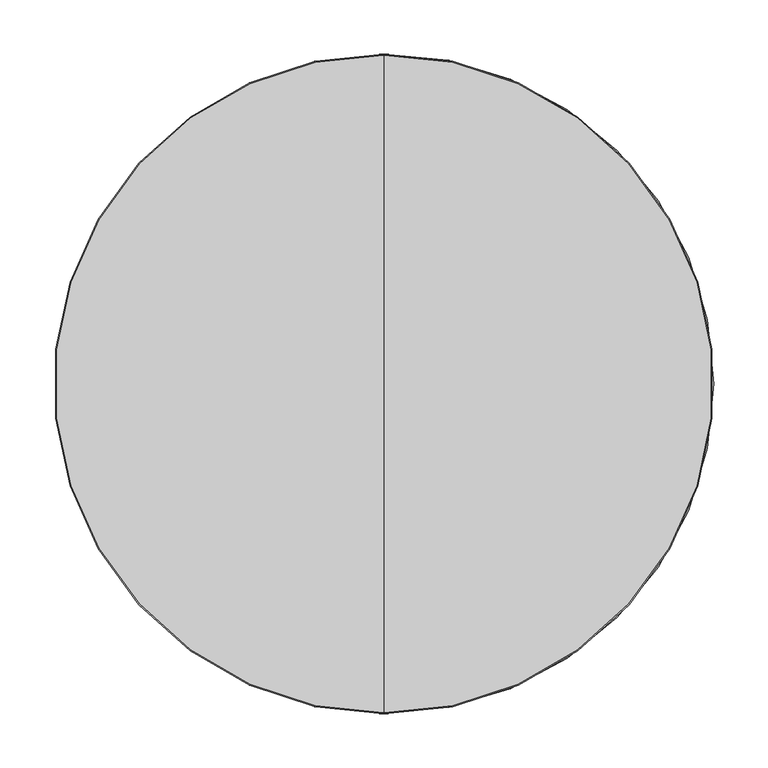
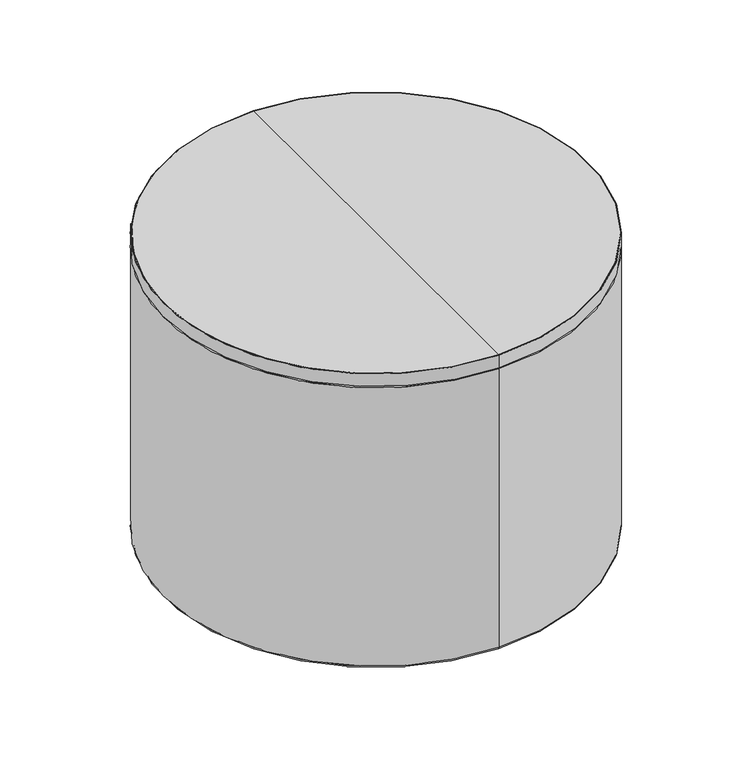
"""IFC4 building model written with IfcOpenShell, lengths in millimetres: furniture geometry, Indiana-Otty-Ottoman_Round_Table : 840-2418ROT."""

from ifc_helpers import new_model, si_unit, point, frame, origin, place, context, project, spatial, polyline, circle_curve, ellipse_curve, trimmed, source, transform, mapped, element, save
from ifc_brep_helpers import plane_surface, cylinder_surface, revolved_surface, advanced_brep


def furniture_b14e69c4(model_context):
    return source(origin(), model_context, "Body", "AdvancedBrep", [
        advanced_brep(
        [(237.5670449, 57.5253392, 19.8875), (218.0814733, 68.7753392, 19.8875), (257.0526165, 46.2753392, 19.8875), (218.4698785, 68.5510934, 4.2458827), (256.6642112, 46.4995851, 4.2458827), (222.3541253, 66.3085225, -0.1125), (252.7799645, 48.742156, -0.1125), (228.675027, 62.6591482, -0.1125), (246.4590628, 52.3915303, -0.1125), (232.0477423, 60.7119101, 3.9179615), (243.0863475, 54.3387684, 3.9179615), (237.5670449, 57.5253392, 3.9179615)],
        [
            (0, 1),
            (1, 2, circle_curve(frame((237.5670449, 57.5253392, 19.8875), z_axis=(0.0, 0.0, 1.0), x_axis=(-0.8660254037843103, 0.5000000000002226, 0.0)), 22.5)),
            (2, 0),
            (2, 1, circle_curve(frame((237.5670449, 57.5253392, 19.8875), z_axis=(0.0, 0.0, 1.0), x_axis=(-0.8660254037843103, 0.5000000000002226, 0.0)), 22.5)),
            (1, 3),
            (3, 4, circle_curve(frame((237.5670449, 57.5253392, 4.2458827), z_axis=(0.0, 0.0, 1.0), x_axis=(-0.8660254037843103, 0.5000000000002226, 0.0)), 22.0515082)),
            (4, 2),
            (4, 3, circle_curve(frame((237.5670449, 57.5253392, 4.2458827), z_axis=(0.0, 0.0, 1.0), x_axis=(-0.8660254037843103, 0.5000000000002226, 0.0)), 22.0515082)),
            (3, 5, circle_curve(frame((222.3541253, 66.3085225, 4.3744851), z_axis=(-0.5000000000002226, -0.8660254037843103, 0.0), x_axis=(0.8660254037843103, -0.5000000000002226, 0.0)), 4.4869851)),
            (5, 6, circle_curve(frame((237.5670449, 57.5253392, -0.1125), z_axis=(0.0, 0.0, 1.0), x_axis=(-0.8660254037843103, 0.5000000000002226, 0.0)), 17.5663665)),
            (6, 4, circle_curve(frame((252.7799645, 48.742156, 4.3744851), z_axis=(-0.5000000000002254, -0.8660254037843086, 0.0), x_axis=(-0.8660254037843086, 0.5000000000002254, 0.0)), 4.4869851)),
            (6, 5, circle_curve(frame((237.5670449, 57.5253392, -0.1125), z_axis=(0.0, 0.0, 1.0), x_axis=(-0.8660254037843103, 0.5000000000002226, 0.0)), 17.5663665)),
            (5, 7),
            (7, 8, circle_curve(frame((237.5670449, 57.5253392, -0.1125), z_axis=(0.0, 0.0, 1.0), x_axis=(-0.8660254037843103, 0.5000000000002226, 0.0)), 10.2676178)),
            (8, 6),
            (8, 7, circle_curve(frame((237.5670449, 57.5253392, -0.1125), z_axis=(0.0, 0.0, 1.0), x_axis=(-0.8660254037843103, 0.5000000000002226, 0.0)), 10.2676178)),
            (7, 9, circle_curve(frame((228.675027, 62.6591482, 3.7842702), z_axis=(-0.5000000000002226, -0.8660254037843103, 0.0), x_axis=(0.8660254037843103, -0.5000000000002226, 0.0)), 3.8967702)),
            (9, 10, circle_curve(frame((237.5670449, 57.5253392, 3.9179615), z_axis=(0.0, 0.0, 1.0), x_axis=(-0.8660254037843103, 0.5000000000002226, 0.0)), 6.3731417)),
            (10, 8, circle_curve(frame((246.4590628, 52.3915303, 3.7842702), z_axis=(-0.5000000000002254, -0.8660254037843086, 0.0), x_axis=(-0.8660254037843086, 0.5000000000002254, 0.0)), 3.8967702)),
            (10, 9, circle_curve(frame((237.5670449, 57.5253392, 3.9179615), z_axis=(0.0, 0.0, 1.0), x_axis=(-0.8660254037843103, 0.5000000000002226, 0.0)), 6.3731417)),
            (9, 11),
            (11, 10),
        ],
        [
            plane_surface(frame((237.5670449, 57.5253392, 19.8875), z_axis=(0.0, 0.0, 1.0000000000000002), x_axis=(-0.8660254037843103, 0.5000000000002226, 0.0))),
            revolved_surface(polyline([(218.4698785, 68.5510934, 4.2458827), (218.0814733, 68.7753392, 19.8875)]), (237.5670449, 57.5253392, 31.0803862), (0.0, 0.0, 1.0)),
            revolved_surface(trimmed(ellipse_curve(frame((222.3541253, 66.3085225, 4.3744851), z_axis=(0.5000000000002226, 0.8660254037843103, 0.0), x_axis=(0.8660254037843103, -0.5000000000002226, 0.0)), 4.4869851, 4.4869851), [point((222.3541253, 66.3085225, -0.1125))], [point((218.4698785, 68.5510934, 4.2458827))], True, "CARTESIAN"), (237.5670449, 57.5253392, 31.0803862), (0.0, 0.0, 1.0)),
            plane_surface(frame((237.5670449, 57.5253392, -0.1125), z_axis=(0.0, 0.0, -1.0000000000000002), x_axis=(-0.8660254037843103, 0.5000000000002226, 0.0))),
            revolved_surface(trimmed(ellipse_curve(frame((228.675027, 62.6591482, 3.7842702), z_axis=(0.5000000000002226, 0.8660254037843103, 0.0), x_axis=(0.8660254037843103, -0.5000000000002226, 0.0)), 3.8967702, 3.8967702), [point((232.0477423, 60.7119101, 3.9179615))], [point((228.675027, 62.6591482, -0.1125))], True, "CARTESIAN"), (237.5670449, 57.5253392, 31.0803862), (0.0, 0.0, 1.0)),
            plane_surface(frame((237.5670449, 57.5253392, 3.9179615), z_axis=(0.0, 0.0, -1.0000000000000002), x_axis=(-0.8660254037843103, 0.5000000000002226, 0.0))),
        ],
        [
            (0, [[1, 2, 3]]),
            (0, [[-3, 4, -1]]),
            (1, [[-2, 5, 6, 7]]),
            (1, [[-4, -7, 8, -5]]),
            (2, [[-6, 9, 10, 11]]),
            (2, [[-8, -11, 12, -9]]),
            (3, [[-10, 13, 14, 15]]),
            (3, [[-12, -15, 16, -13]]),
            (4, [[-14, 17, 18, 19]]),
            (4, [[-16, -19, 20, -17]]),
            (5, [[-18, 21, 22]]),
            (5, [[-20, -22, -21]]),
        ],
    ),
        advanced_brep(
        [(168.6019276, -176.9764263, 19.8875), (168.6019276, -154.4764263, 19.8875), (168.6019276, -199.4764263, 19.8875), (168.6019276, -154.9249181, 4.2458827), (168.6019276, -199.0279346, 4.2458827), (168.6019276, -159.4100599, -0.1125), (168.6019276, -194.5427928, -0.1125), (168.6019276, -166.7088085, -0.1125), (168.6019276, -187.2440442, -0.1125), (168.6019276, -170.6032847, 3.9179615), (168.6019276, -183.349568, 3.9179615), (168.6019276, -176.9764263, 3.9179615)],
        [
            (0, 1),
            (1, 2, circle_curve(frame((168.6019276, -176.9764263, 19.8875), z_axis=(0.0, 0.0, 1.0), x_axis=(0.0, 1.0, 0.0)), 22.5)),
            (2, 0),
            (2, 1, circle_curve(frame((168.6019276, -176.9764263, 19.8875), z_axis=(0.0, 0.0, 1.0), x_axis=(0.0, 1.0, 0.0)), 22.5)),
            (1, 3),
            (3, 4, circle_curve(frame((168.6019276, -176.9764263, 4.2458827), z_axis=(0.0, 0.0, 1.0), x_axis=(0.0, 1.0, 0.0)), 22.0515082)),
            (4, 2),
            (4, 3, circle_curve(frame((168.6019276, -176.9764263, 4.2458827), z_axis=(0.0, 0.0, 1.0), x_axis=(0.0, 1.0, 0.0)), 22.0515082)),
            (3, 5, circle_curve(frame((168.6019276, -159.4100599, 4.3744851), z_axis=(-1.0, 0.0, 0.0), x_axis=(0.0, -1.0, 0.0)), 4.4869851)),
            (5, 6, circle_curve(frame((168.6019276, -176.9764263, -0.1125), z_axis=(0.0, 0.0, 1.0), x_axis=(0.0, 1.0, 0.0)), 17.5663665)),
            (6, 4, circle_curve(frame((168.6019276, -194.5427928, 4.3744851), z_axis=(-1.0, 0.0, 0.0), x_axis=(0.0, 1.0, 0.0)), 4.4869851)),
            (6, 5, circle_curve(frame((168.6019276, -176.9764263, -0.1125), z_axis=(0.0, 0.0, 1.0), x_axis=(0.0, 1.0, 0.0)), 17.5663665)),
            (5, 7),
            (7, 8, circle_curve(frame((168.6019276, -176.9764263, -0.1125), z_axis=(0.0, 0.0, 1.0), x_axis=(0.0, 1.0, 0.0)), 10.2676178)),
            (8, 6),
            (8, 7, circle_curve(frame((168.6019276, -176.9764263, -0.1125), z_axis=(0.0, 0.0, 1.0), x_axis=(0.0, 1.0, 0.0)), 10.2676178)),
            (7, 9, circle_curve(frame((168.6019276, -166.7088085, 3.7842702), z_axis=(-1.0, 0.0, 0.0), x_axis=(0.0, -1.0, 0.0)), 3.8967702)),
            (9, 10, circle_curve(frame((168.6019276, -176.9764263, 3.9179615), z_axis=(0.0, 0.0, 1.0), x_axis=(0.0, 1.0, 0.0)), 6.3731417)),
            (10, 8, circle_curve(frame((168.6019276, -187.2440442, 3.7842702), z_axis=(-1.0, 0.0, 0.0), x_axis=(0.0, 1.0, 0.0)), 3.8967702)),
            (10, 9, circle_curve(frame((168.6019276, -176.9764263, 3.9179615), z_axis=(0.0, 0.0, 1.0), x_axis=(0.0, 1.0, 0.0)), 6.3731417)),
            (9, 11),
            (11, 10),
        ],
        [
            plane_surface(frame((168.6019276, -176.9764263, 19.8875), z_axis=(0.0, 0.0, 1.0), x_axis=(0.0, 1.0, 0.0))),
            revolved_surface(polyline([(168.6019276, -154.9249181, 4.2458827), (168.6019276, -154.4764263, 19.8875)]), (168.6019276, -176.9764263, 31.0803862), (0.0, 0.0, 1.0)),
            revolved_surface(trimmed(ellipse_curve(frame((168.6019276, -159.4100599, 4.3744851), z_axis=(1.0, 0.0, 0.0), x_axis=(0.0, -1.0, 0.0)), 4.4869851, 4.4869851), [point((168.6019276, -159.4100599, -0.1125))], [point((168.6019276, -154.9249181, 4.2458827))], True, "CARTESIAN"), (168.6019276, -176.9764263, 31.0803862), (0.0, 0.0, 1.0)),
            plane_surface(frame((168.6019276, -176.9764263, -0.1125), z_axis=(0.0, 0.0, -1.0), x_axis=(0.0, 1.0, 0.0))),
            revolved_surface(trimmed(ellipse_curve(frame((168.6019276, -166.7088085, 3.7842702), z_axis=(1.0, 0.0, 0.0), x_axis=(0.0, -1.0, 0.0)), 3.8967702, 3.8967702), [point((168.6019276, -170.6032847, 3.9179615))], [point((168.6019276, -166.7088085, -0.1125))], True, "CARTESIAN"), (168.6019276, -176.9764263, 31.0803862), (0.0, 0.0, 1.0)),
            plane_surface(frame((168.6019276, -176.9764263, 3.9179615), z_axis=(0.0, 0.0, -1.0), x_axis=(0.0, 1.0, 0.0))),
        ],
        [
            (0, [[1, 2, 3]]),
            (0, [[-3, 4, -1]]),
            (1, [[-2, 5, 6, 7]]),
            (1, [[-4, -7, 8, -5]]),
            (2, [[-6, 9, 10, 11]]),
            (2, [[-8, -11, 12, -9]]),
            (3, [[-10, 13, 14, 15]]),
            (3, [[-12, -15, 16, -13]]),
            (4, [[-14, 17, 18, 19]]),
            (4, [[-16, -19, 20, -17]]),
            (5, [[-18, 21, 22]]),
            (5, [[-20, -22, -21]]),
        ],
    ),
        advanced_brep(
        [(0.0, -303.8078125, 438.15), (0.0, 303.8078125, 438.15), (0.0, 0.0, 438.15), (0.0, -303.8078125, 457.2), (0.0, 303.8078125, 457.2), (0.0, 0.0, 457.2)],
        [
            (0, 1, circle_curve(frame((0.0, 0.0, 438.15), z_axis=(0.0, 0.0, -1.0), x_axis=(0.0, 1.0, 0.0)), 303.8078125)),
            (1, 2),
            (2, 0),
            (1, 0, circle_curve(frame((0.0, 0.0, 438.15), z_axis=(0.0, 0.0, -1.0), x_axis=(0.0, 1.0, 0.0)), 303.8078125)),
            (3, 4, circle_curve(frame((0.0, 0.0, 457.2), z_axis=(0.0, 0.0, -1.0), x_axis=(0.0, 1.0, 0.0)), 303.8078125)),
            (4, 1),
            (0, 3),
            (4, 3, circle_curve(frame((0.0, 0.0, 457.2), z_axis=(0.0, 0.0, -1.0), x_axis=(0.0, 1.0, 0.0)), 303.8078125)),
            (5, 4),
            (3, 5),
        ],
        [
            plane_surface(frame((0.0, 0.0, 438.15), z_axis=(0.0, 0.0, -1.0), x_axis=(0.0, 1.0, 0.0))),
            cylinder_surface(frame((0.0, 0.0, 463.55), z_axis=(0.0, 0.0, 1.0), x_axis=(0.0, 1.0, 0.0)), 303.8078125),
            plane_surface(frame((0.0, 0.0, 457.2), z_axis=(0.0, 0.0, 1.0), x_axis=(0.0, 1.0, 0.0))),
        ],
        [
            (0, [[1, 2, 3]]),
            (0, [[4, -3, -2]]),
            (1, [[5, 6, -1, 7]]),
            (1, [[8, -7, -4, -6]]),
            (2, [[9, -5, 10]]),
            (2, [[-10, -8, -9]]),
        ],
    ),
        advanced_brep(
        [(0.0, -303.8078125, 438.15), (0.0, 303.8078125, 438.15), (0.0, 303.8078125, 457.2), (0.0, -303.8078125, 457.2), (0.0, -304.8, 438.15), (0.0, 304.8, 438.15), (0.0, -304.8, 457.2), (0.0, 304.8, 457.2)],
        [
            (0, 1, circle_curve(frame((0.0, 0.0, 438.15), z_axis=(0.0, 0.0, -1.0), x_axis=(0.0, 1.0, 0.0)), 303.8078125)),
            (1, 2),
            (2, 3, circle_curve(frame((0.0, 0.0, 457.2), z_axis=(0.0, 0.0, 1.0), x_axis=(0.0, 1.0, 0.0)), 303.8078125)),
            (3, 0),
            (1, 0, circle_curve(frame((0.0, 0.0, 438.15), z_axis=(0.0, 0.0, -1.0), x_axis=(0.0, 1.0, 0.0)), 303.8078125)),
            (3, 2, circle_curve(frame((0.0, 0.0, 457.2), z_axis=(0.0, 0.0, 1.0), x_axis=(0.0, 1.0, 0.0)), 303.8078125)),
            (4, 5, circle_curve(frame((0.0, 0.0, 438.15), z_axis=(0.0, 0.0, -1.0), x_axis=(0.0, 1.0, 0.0)), 304.8)),
            (5, 1),
            (0, 4),
            (5, 4, circle_curve(frame((0.0, 0.0, 438.15), z_axis=(0.0, 0.0, -1.0), x_axis=(0.0, 1.0, 0.0)), 304.8)),
            (6, 7, circle_curve(frame((0.0, 0.0, 457.2), z_axis=(0.0, 0.0, -1.0), x_axis=(0.0, 1.0, 0.0)), 304.8)),
            (7, 5),
            (4, 6),
            (7, 6, circle_curve(frame((0.0, 0.0, 457.2), z_axis=(0.0, 0.0, -1.0), x_axis=(0.0, 1.0, 0.0)), 304.8)),
            (2, 7),
            (6, 3),
        ],
        [
            revolved_surface(polyline([(0.0, 303.8078125, 457.2), (0.0, 303.8078125, 438.15)]), (0.0, 0.0, 476.25), (0.0, 0.0, 1.0)),
            plane_surface(frame((0.0, 0.0, 438.15), z_axis=(0.0, 0.0, -1.0), x_axis=(0.0, 1.0, 0.0))),
            cylinder_surface(frame((0.0, 0.0, 476.25), z_axis=(0.0, 0.0, 1.0), x_axis=(0.0, 1.0, 0.0)), 304.8),
            plane_surface(frame((0.0, 0.0, 457.2), z_axis=(0.0, 0.0, 1.0), x_axis=(0.0, 1.0, 0.0))),
        ],
        [
            (0, [[1, 2, 3, 4]]),
            (0, [[5, -4, 6, -2]]),
            (1, [[7, 8, -1, 9]]),
            (1, [[10, -9, -5, -8]]),
            (2, [[11, 12, -7, 13]]),
            (2, [[14, -13, -10, -12]]),
            (3, [[-3, 15, -11, 16]]),
            (3, [[-6, -16, -14, -15]]),
        ],
    ),
        advanced_brep(
        [(-68.9651173, -234.5017656, 19.8875), (-49.4795457, -223.2517656, 19.8875), (-88.4506889, -245.7517656, 19.8875), (-49.867951, -223.4760115, 4.2458827), (-88.0622836, -245.5275197, 4.2458827), (-53.7521977, -225.7185823, -0.1125), (-84.1780369, -243.2849488, -0.1125), (-60.0730994, -229.3679567, -0.1125), (-77.8571352, -239.6355745, -0.1125), (-63.4458147, -231.3151948, 3.9179615), (-74.4844199, -237.6883364, 3.9179615), (-68.9651173, -234.5017656, 3.9179615)],
        [
            (0, 1),
            (1, 2, circle_curve(frame((-68.9651173, -234.5017656, 19.8875), z_axis=(0.0, 0.0, 1.0), x_axis=(0.866025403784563, 0.49999999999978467, 0.0)), 22.5)),
            (2, 0),
            (2, 1, circle_curve(frame((-68.9651173, -234.5017656, 19.8875), z_axis=(0.0, 0.0, 1.0), x_axis=(0.866025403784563, 0.49999999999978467, 0.0)), 22.5)),
            (1, 3),
            (3, 4, circle_curve(frame((-68.9651173, -234.5017656, 4.2458827), z_axis=(0.0, 0.0, 1.0), x_axis=(0.866025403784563, 0.49999999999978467, 0.0)), 22.0515082)),
            (4, 2),
            (4, 3, circle_curve(frame((-68.9651173, -234.5017656, 4.2458827), z_axis=(0.0, 0.0, 1.0), x_axis=(0.866025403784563, 0.49999999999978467, 0.0)), 22.0515082)),
            (3, 5, circle_curve(frame((-53.7521977, -225.7185823, 4.3744851), z_axis=(-0.49999999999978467, 0.866025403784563, 0.0), x_axis=(-0.866025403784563, -0.49999999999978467, 0.0)), 4.4869851)),
            (5, 6, circle_curve(frame((-68.9651173, -234.5017656, -0.1125), z_axis=(0.0, 0.0, 1.0), x_axis=(0.866025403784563, 0.49999999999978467, 0.0)), 17.5663665)),
            (6, 4, circle_curve(frame((-84.1780369, -243.2849488, 4.3744851), z_axis=(-0.4999999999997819, 0.8660254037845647, 0.0), x_axis=(0.8660254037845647, 0.4999999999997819, 0.0)), 4.4869851)),
            (6, 5, circle_curve(frame((-68.9651173, -234.5017656, -0.1125), z_axis=(0.0, 0.0, 1.0), x_axis=(0.866025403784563, 0.49999999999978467, 0.0)), 17.5663665)),
            (5, 7),
            (7, 8, circle_curve(frame((-68.9651173, -234.5017656, -0.1125), z_axis=(0.0, 0.0, 1.0), x_axis=(0.866025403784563, 0.49999999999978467, 0.0)), 10.2676178)),
            (8, 6),
            (8, 7, circle_curve(frame((-68.9651173, -234.5017656, -0.1125), z_axis=(0.0, 0.0, 1.0), x_axis=(0.866025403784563, 0.49999999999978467, 0.0)), 10.2676178)),
            (7, 9, circle_curve(frame((-60.0730994, -229.3679567, 3.7842702), z_axis=(-0.49999999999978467, 0.866025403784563, 0.0), x_axis=(-0.866025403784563, -0.49999999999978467, 0.0)), 3.8967702)),
            (9, 10, circle_curve(frame((-68.9651173, -234.5017656, 3.9179615), z_axis=(0.0, 0.0, 1.0), x_axis=(0.866025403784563, 0.49999999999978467, 0.0)), 6.3731417)),
            (10, 8, circle_curve(frame((-77.8571352, -239.6355745, 3.7842702), z_axis=(-0.4999999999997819, 0.8660254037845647, 0.0), x_axis=(0.8660254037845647, 0.4999999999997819, 0.0)), 3.8967702)),
            (10, 9, circle_curve(frame((-68.9651173, -234.5017656, 3.9179615), z_axis=(0.0, 0.0, 1.0), x_axis=(0.866025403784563, 0.49999999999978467, 0.0)), 6.3731417)),
            (9, 11),
            (11, 10),
        ],
        [
            plane_surface(frame((-68.9651173, -234.5017656, 19.8875), z_axis=(0.0, 0.0, 1.0000000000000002), x_axis=(0.866025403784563, 0.49999999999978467, 0.0))),
            revolved_surface(polyline([(-49.867951, -223.4760115, 4.2458827), (-49.4795457, -223.2517656, 19.8875)]), (-68.9651173, -234.5017656, 31.0803862), (0.0, 0.0, 1.0)),
            revolved_surface(trimmed(ellipse_curve(frame((-53.7521977, -225.7185823, 4.3744851), z_axis=(0.49999999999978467, -0.866025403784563, 0.0), x_axis=(-0.866025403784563, -0.49999999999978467, 0.0)), 4.4869851, 4.4869851), [point((-53.7521977, -225.7185823, -0.1125))], [point((-49.867951, -223.4760115, 4.2458827))], True, "CARTESIAN"), (-68.9651173, -234.5017656, 31.0803862), (0.0, 0.0, 1.0)),
            plane_surface(frame((-68.9651173, -234.5017656, -0.1125), z_axis=(0.0, 0.0, -1.0000000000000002), x_axis=(0.866025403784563, 0.49999999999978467, 0.0))),
            revolved_surface(trimmed(ellipse_curve(frame((-60.0730994, -229.3679567, 3.7842702), z_axis=(0.49999999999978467, -0.866025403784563, 0.0), x_axis=(-0.866025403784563, -0.49999999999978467, 0.0)), 3.8967702, 3.8967702), [point((-63.4458147, -231.3151948, 3.9179615))], [point((-60.0730994, -229.3679567, -0.1125))], True, "CARTESIAN"), (-68.9651173, -234.5017656, 31.0803862), (0.0, 0.0, 1.0)),
            plane_surface(frame((-68.9651173, -234.5017656, 3.9179615), z_axis=(0.0, 0.0, -1.0000000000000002), x_axis=(0.866025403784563, 0.49999999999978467, 0.0))),
        ],
        [
            (0, [[1, 2, 3]]),
            (0, [[-3, 4, -1]]),
            (1, [[-2, 5, 6, 7]]),
            (1, [[-4, -7, 8, -5]]),
            (2, [[-6, 9, 10, 11]]),
            (2, [[-8, -11, 12, -9]]),
            (3, [[-10, 13, 14, 15]]),
            (3, [[-12, -15, 16, -13]]),
            (4, [[-14, 17, 18, 19]]),
            (4, [[-16, -19, 20, -17]]),
            (5, [[-18, 21, 22]]),
            (5, [[-20, -22, -21]]),
        ],
    ),
        advanced_brep(
        [(-237.5670449, -57.5253392, 19.8875), (-218.0814733, -68.7753392, 19.8875), (-257.0526165, -46.2753392, 19.8875), (-218.4698785, -68.5510934, 4.2458827), (-256.6642112, -46.4995851, 4.2458827), (-222.3541253, -66.3085225, -0.1125), (-252.7799645, -48.742156, -0.1125), (-228.675027, -62.6591482, -0.1125), (-246.4590628, -52.3915303, -0.1125), (-232.0477423, -60.7119101, 3.9179615), (-243.0863475, -54.3387684, 3.9179615), (-237.5670449, -57.5253392, 3.9179615)],
        [
            (0, 1),
            (1, 2, circle_curve(frame((-237.5670449, -57.5253392, 19.8875), z_axis=(0.0, 0.0, 1.0), x_axis=(0.8660254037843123, -0.500000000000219, 0.0)), 22.5)),
            (2, 0),
            (2, 1, circle_curve(frame((-237.5670449, -57.5253392, 19.8875), z_axis=(0.0, 0.0, 1.0), x_axis=(0.8660254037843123, -0.500000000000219, 0.0)), 22.5)),
            (1, 3),
            (3, 4, circle_curve(frame((-237.5670449, -57.5253392, 4.2458827), z_axis=(0.0, 0.0, 1.0), x_axis=(0.8660254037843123, -0.500000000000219, 0.0)), 22.0515082)),
            (4, 2),
            (4, 3, circle_curve(frame((-237.5670449, -57.5253392, 4.2458827), z_axis=(0.0, 0.0, 1.0), x_axis=(0.8660254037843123, -0.500000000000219, 0.0)), 22.0515082)),
            (3, 5, circle_curve(frame((-222.3541253, -66.3085225, 4.3744851), z_axis=(0.500000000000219, 0.8660254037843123, 0.0), x_axis=(-0.8660254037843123, 0.500000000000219, 0.0)), 4.4869851)),
            (5, 6, circle_curve(frame((-237.5670449, -57.5253392, -0.1125), z_axis=(0.0, 0.0, 1.0), x_axis=(0.8660254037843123, -0.500000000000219, 0.0)), 17.5663665)),
            (6, 4, circle_curve(frame((-252.7799645, -48.742156, 4.3744851), z_axis=(0.5000000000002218, 0.8660254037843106, 0.0), x_axis=(0.8660254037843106, -0.5000000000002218, 0.0)), 4.4869851)),
            (6, 5, circle_curve(frame((-237.5670449, -57.5253392, -0.1125), z_axis=(0.0, 0.0, 1.0), x_axis=(0.8660254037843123, -0.500000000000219, 0.0)), 17.5663665)),
            (5, 7),
            (7, 8, circle_curve(frame((-237.5670449, -57.5253392, -0.1125), z_axis=(0.0, 0.0, 1.0), x_axis=(0.8660254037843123, -0.500000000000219, 0.0)), 10.2676178)),
            (8, 6),
            (8, 7, circle_curve(frame((-237.5670449, -57.5253392, -0.1125), z_axis=(0.0, 0.0, 1.0), x_axis=(0.8660254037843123, -0.500000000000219, 0.0)), 10.2676178)),
            (7, 9, circle_curve(frame((-228.675027, -62.6591482, 3.7842702), z_axis=(0.500000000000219, 0.8660254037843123, 0.0), x_axis=(-0.8660254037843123, 0.500000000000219, 0.0)), 3.8967702)),
            (9, 10, circle_curve(frame((-237.5670449, -57.5253392, 3.9179615), z_axis=(0.0, 0.0, 1.0), x_axis=(0.8660254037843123, -0.500000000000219, 0.0)), 6.3731417)),
            (10, 8, circle_curve(frame((-246.4590628, -52.3915303, 3.7842702), z_axis=(0.5000000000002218, 0.8660254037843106, 0.0), x_axis=(0.8660254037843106, -0.5000000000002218, 0.0)), 3.8967702)),
            (10, 9, circle_curve(frame((-237.5670449, -57.5253392, 3.9179615), z_axis=(0.0, 0.0, 1.0), x_axis=(0.8660254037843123, -0.500000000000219, 0.0)), 6.3731417)),
            (9, 11),
            (11, 10),
        ],
        [
            plane_surface(frame((-237.5670449, -57.5253392, 19.8875), z_axis=(0.0, 0.0, 1.0), x_axis=(0.8660254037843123, -0.500000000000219, 0.0))),
            revolved_surface(polyline([(-218.4698785, -68.5510934, 4.2458827), (-218.0814733, -68.7753392, 19.8875)]), (-237.5670449, -57.5253392, 31.0803862), (0.0, 0.0, 1.0)),
            revolved_surface(trimmed(ellipse_curve(frame((-222.3541253, -66.3085225, 4.3744851), z_axis=(-0.500000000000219, -0.8660254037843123, 0.0), x_axis=(-0.8660254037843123, 0.500000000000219, 0.0)), 4.4869851, 4.4869851), [point((-222.3541253, -66.3085225, -0.1125))], [point((-218.4698785, -68.5510934, 4.2458827))], True, "CARTESIAN"), (-237.5670449, -57.5253392, 31.0803862), (0.0, 0.0, 1.0)),
            plane_surface(frame((-237.5670449, -57.5253392, -0.1125), z_axis=(0.0, 0.0, -1.0), x_axis=(0.8660254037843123, -0.500000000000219, 0.0))),
            revolved_surface(trimmed(ellipse_curve(frame((-228.675027, -62.6591482, 3.7842702), z_axis=(-0.500000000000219, -0.8660254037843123, 0.0), x_axis=(-0.8660254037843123, 0.500000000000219, 0.0)), 3.8967702, 3.8967702), [point((-232.0477423, -60.7119101, 3.9179615))], [point((-228.675027, -62.6591482, -0.1125))], True, "CARTESIAN"), (-237.5670449, -57.5253392, 31.0803862), (0.0, 0.0, 1.0)),
            plane_surface(frame((-237.5670449, -57.5253392, 3.9179615), z_axis=(0.0, 0.0, -1.0), x_axis=(0.8660254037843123, -0.500000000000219, 0.0))),
        ],
        [
            (0, [[1, 2, 3]]),
            (0, [[-3, 4, -1]]),
            (1, [[-2, 5, 6, 7]]),
            (1, [[-4, -7, 8, -5]]),
            (2, [[-6, 9, 10, 11]]),
            (2, [[-8, -11, 12, -9]]),
            (3, [[-10, 13, 14, 15]]),
            (3, [[-12, -15, 16, -13]]),
            (4, [[-14, 17, 18, 19]]),
            (4, [[-16, -19, 20, -17]]),
            (5, [[-18, 21, 22]]),
            (5, [[-20, -22, -21]]),
        ],
    ),
        advanced_brep(
        [(68.9651173, 234.5017656, 19.8875), (49.4795457, 223.2517656, 19.8875), (88.4506889, 245.7517656, 19.8875), (49.867951, 223.4760115, 4.2458827), (88.0622836, 245.5275197, 4.2458827), (53.7521977, 225.7185823, -0.1125), (84.1780369, 243.2849488, -0.1125), (60.0730994, 229.3679567, -0.1125), (77.8571352, 239.6355745, -0.1125), (63.4458147, 231.3151948, 3.9179615), (74.4844199, 237.6883364, 3.9179615), (68.9651173, 234.5017656, 3.9179615)],
        [
            (0, 1),
            (1, 2, circle_curve(frame((68.9651173, 234.5017656, 19.8875), z_axis=(0.0, 0.0, 1.0), x_axis=(-0.8660254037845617, -0.4999999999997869, 0.0)), 22.5)),
            (2, 0),
            (2, 1, circle_curve(frame((68.9651173, 234.5017656, 19.8875), z_axis=(0.0, 0.0, 1.0), x_axis=(-0.8660254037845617, -0.4999999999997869, 0.0)), 22.5)),
            (1, 3),
            (3, 4, circle_curve(frame((68.9651173, 234.5017656, 4.2458827), z_axis=(0.0, 0.0, 1.0), x_axis=(-0.8660254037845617, -0.4999999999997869, 0.0)), 22.0515082)),
            (4, 2),
            (4, 3, circle_curve(frame((68.9651173, 234.5017656, 4.2458827), z_axis=(0.0, 0.0, 1.0), x_axis=(-0.8660254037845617, -0.4999999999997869, 0.0)), 22.0515082)),
            (3, 5, circle_curve(frame((53.7521977, 225.7185823, 4.3744851), z_axis=(0.4999999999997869, -0.8660254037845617, 0.0), x_axis=(0.8660254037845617, 0.4999999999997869, 0.0)), 4.4869851)),
            (5, 6, circle_curve(frame((68.9651173, 234.5017656, -0.1125), z_axis=(0.0, 0.0, 1.0), x_axis=(-0.8660254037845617, -0.4999999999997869, 0.0)), 17.5663665)),
            (6, 4, circle_curve(frame((84.1780369, 243.2849488, 4.3744851), z_axis=(0.4999999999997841, -0.8660254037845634, 0.0), x_axis=(-0.8660254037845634, -0.4999999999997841, 0.0)), 4.4869851)),
            (6, 5, circle_curve(frame((68.9651173, 234.5017656, -0.1125), z_axis=(0.0, 0.0, 1.0), x_axis=(-0.8660254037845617, -0.4999999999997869, 0.0)), 17.5663665)),
            (5, 7),
            (7, 8, circle_curve(frame((68.9651173, 234.5017656, -0.1125), z_axis=(0.0, 0.0, 1.0), x_axis=(-0.8660254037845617, -0.4999999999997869, 0.0)), 10.2676178)),
            (8, 6),
            (8, 7, circle_curve(frame((68.9651173, 234.5017656, -0.1125), z_axis=(0.0, 0.0, 1.0), x_axis=(-0.8660254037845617, -0.4999999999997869, 0.0)), 10.2676178)),
            (7, 9, circle_curve(frame((60.0730994, 229.3679567, 3.7842702), z_axis=(0.4999999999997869, -0.8660254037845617, 0.0), x_axis=(0.8660254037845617, 0.4999999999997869, 0.0)), 3.8967702)),
            (9, 10, circle_curve(frame((68.9651173, 234.5017656, 3.9179615), z_axis=(0.0, 0.0, 1.0), x_axis=(-0.8660254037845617, -0.4999999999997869, 0.0)), 6.3731417)),
            (10, 8, circle_curve(frame((77.8571352, 239.6355745, 3.7842702), z_axis=(0.4999999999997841, -0.8660254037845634, 0.0), x_axis=(-0.8660254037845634, -0.4999999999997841, 0.0)), 3.8967702)),
            (10, 9, circle_curve(frame((68.9651173, 234.5017656, 3.9179615), z_axis=(0.0, 0.0, 1.0), x_axis=(-0.8660254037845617, -0.4999999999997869, 0.0)), 6.3731417)),
            (9, 11),
            (11, 10),
        ],
        [
            plane_surface(frame((68.9651173, 234.5017656, 19.8875), z_axis=(0.0, 0.0, 1.0), x_axis=(-0.8660254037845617, -0.4999999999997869, 0.0))),
            revolved_surface(polyline([(49.867951, 223.4760115, 4.2458827), (49.4795457, 223.2517656, 19.8875)]), (68.9651173, 234.5017656, 31.0803862), (0.0, 0.0, 1.0)),
            revolved_surface(trimmed(ellipse_curve(frame((53.7521977, 225.7185823, 4.3744851), z_axis=(-0.4999999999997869, 0.8660254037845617, 0.0), x_axis=(0.8660254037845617, 0.4999999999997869, 0.0)), 4.4869851, 4.4869851), [point((53.7521977, 225.7185823, -0.1125))], [point((49.867951, 223.4760115, 4.2458827))], True, "CARTESIAN"), (68.9651173, 234.5017656, 31.0803862), (0.0, 0.0, 1.0)),
            plane_surface(frame((68.9651173, 234.5017656, -0.1125), z_axis=(0.0, 0.0, -1.0), x_axis=(-0.8660254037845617, -0.4999999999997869, 0.0))),
            revolved_surface(trimmed(ellipse_curve(frame((60.0730994, 229.3679567, 3.7842702), z_axis=(-0.4999999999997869, 0.8660254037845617, 0.0), x_axis=(0.8660254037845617, 0.4999999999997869, 0.0)), 3.8967702, 3.8967702), [point((63.4458147, 231.3151948, 3.9179615))], [point((60.0730994, 229.3679567, -0.1125))], True, "CARTESIAN"), (68.9651173, 234.5017656, 31.0803862), (0.0, 0.0, 1.0)),
            plane_surface(frame((68.9651173, 234.5017656, 3.9179615), z_axis=(0.0, 0.0, -1.0), x_axis=(-0.8660254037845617, -0.4999999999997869, 0.0))),
        ],
        [
            (0, [[1, 2, 3]]),
            (0, [[-3, 4, -1]]),
            (1, [[-2, 5, 6, 7]]),
            (1, [[-4, -7, 8, -5]]),
            (2, [[-6, 9, 10, 11]]),
            (2, [[-8, -11, 12, -9]]),
            (3, [[-10, 13, 14, 15]]),
            (3, [[-12, -15, 16, -13]]),
            (4, [[-14, 17, 18, 19]]),
            (4, [[-16, -19, 20, -17]]),
            (5, [[-18, 21, 22]]),
            (5, [[-20, -22, -21]]),
        ],
    ),
        advanced_brep(
        [(-168.6019276, 176.9764263, 19.8875), (-168.6019276, 154.4764263, 19.8875), (-168.6019276, 199.4764263, 19.8875), (-168.6019276, 154.9249181, 4.2458827), (-168.6019276, 199.0279346, 4.2458827), (-168.6019276, 159.4100599, -0.1125), (-168.6019276, 194.5427928, -0.1125), (-168.6019276, 166.7088085, -0.1125), (-168.6019276, 187.2440442, -0.1125), (-168.6019276, 170.6032847, 3.9179615), (-168.6019276, 183.349568, 3.9179615), (-168.6019276, 176.9764263, 3.9179615)],
        [
            (0, 1),
            (1, 2, circle_curve(frame((-168.6019276, 176.9764263, 19.8875), z_axis=(0.0, 0.0, 1.0), x_axis=(0.0, -1.0, 0.0)), 22.5)),
            (2, 0),
            (2, 1, circle_curve(frame((-168.6019276, 176.9764263, 19.8875), z_axis=(0.0, 0.0, 1.0), x_axis=(0.0, -1.0, 0.0)), 22.5)),
            (1, 3),
            (3, 4, circle_curve(frame((-168.6019276, 176.9764263, 4.2458827), z_axis=(0.0, 0.0, 1.0), x_axis=(0.0, -1.0, 0.0)), 22.0515082)),
            (4, 2),
            (4, 3, circle_curve(frame((-168.6019276, 176.9764263, 4.2458827), z_axis=(0.0, 0.0, 1.0), x_axis=(0.0, -1.0, 0.0)), 22.0515082)),
            (3, 5, circle_curve(frame((-168.6019276, 159.4100599, 4.3744851), z_axis=(1.0, 0.0, 0.0), x_axis=(0.0, 1.0, 0.0)), 4.4869851)),
            (5, 6, circle_curve(frame((-168.6019276, 176.9764263, -0.1125), z_axis=(0.0, 0.0, 1.0), x_axis=(0.0, -1.0, 0.0)), 17.5663665)),
            (6, 4, circle_curve(frame((-168.6019276, 194.5427928, 4.3744851), z_axis=(1.0, 0.0, 0.0), x_axis=(0.0, -1.0, 0.0)), 4.4869851)),
            (6, 5, circle_curve(frame((-168.6019276, 176.9764263, -0.1125), z_axis=(0.0, 0.0, 1.0), x_axis=(0.0, -1.0, 0.0)), 17.5663665)),
            (5, 7),
            (7, 8, circle_curve(frame((-168.6019276, 176.9764263, -0.1125), z_axis=(0.0, 0.0, 1.0), x_axis=(0.0, -1.0, 0.0)), 10.2676178)),
            (8, 6),
            (8, 7, circle_curve(frame((-168.6019276, 176.9764263, -0.1125), z_axis=(0.0, 0.0, 1.0), x_axis=(0.0, -1.0, 0.0)), 10.2676178)),
            (7, 9, circle_curve(frame((-168.6019276, 166.7088085, 3.7842702), z_axis=(1.0, 0.0, 0.0), x_axis=(0.0, 1.0, 0.0)), 3.8967702)),
            (9, 10, circle_curve(frame((-168.6019276, 176.9764263, 3.9179615), z_axis=(0.0, 0.0, 1.0), x_axis=(0.0, -1.0, 0.0)), 6.3731417)),
            (10, 8, circle_curve(frame((-168.6019276, 187.2440442, 3.7842702), z_axis=(1.0, 0.0, 0.0), x_axis=(0.0, -1.0, 0.0)), 3.8967702)),
            (10, 9, circle_curve(frame((-168.6019276, 176.9764263, 3.9179615), z_axis=(0.0, 0.0, 1.0), x_axis=(0.0, -1.0, 0.0)), 6.3731417)),
            (9, 11),
            (11, 10),
        ],
        [
            plane_surface(frame((-168.6019276, 176.9764263, 19.8875), z_axis=(0.0, 0.0, 1.0), x_axis=(0.0, -1.0, 0.0))),
            revolved_surface(polyline([(-168.6019276, 154.9249181, 4.2458827), (-168.6019276, 154.4764263, 19.8875)]), (-168.6019276, 176.9764263, 31.0803862), (0.0, 0.0, 1.0)),
            revolved_surface(trimmed(ellipse_curve(frame((-168.6019276, 159.4100599, 4.3744851), z_axis=(-1.0, 0.0, 0.0), x_axis=(0.0, 1.0, 0.0)), 4.4869851, 4.4869851), [point((-168.6019276, 159.4100599, -0.1125))], [point((-168.6019276, 154.9249181, 4.2458827))], True, "CARTESIAN"), (-168.6019276, 176.9764263, 31.0803862), (0.0, 0.0, 1.0)),
            plane_surface(frame((-168.6019276, 176.9764263, -0.1125), z_axis=(0.0, 0.0, -1.0), x_axis=(0.0, -1.0, 0.0))),
            revolved_surface(trimmed(ellipse_curve(frame((-168.6019276, 166.7088085, 3.7842702), z_axis=(-1.0, 0.0, 0.0), x_axis=(0.0, 1.0, 0.0)), 3.8967702, 3.8967702), [point((-168.6019276, 170.6032847, 3.9179615))], [point((-168.6019276, 166.7088085, -0.1125))], True, "CARTESIAN"), (-168.6019276, 176.9764263, 31.0803862), (0.0, 0.0, 1.0)),
            plane_surface(frame((-168.6019276, 176.9764263, 3.9179615), z_axis=(0.0, 0.0, -1.0), x_axis=(0.0, -1.0, 0.0))),
        ],
        [
            (0, [[1, 2, 3]]),
            (0, [[-3, 4, -1]]),
            (1, [[-2, 5, 6, 7]]),
            (1, [[-4, -7, 8, -5]]),
            (2, [[-6, 9, 10, 11]]),
            (2, [[-8, -11, 12, -9]]),
            (3, [[-10, 13, 14, 15]]),
            (3, [[-12, -15, 16, -13]]),
            (4, [[-14, 17, 18, 19]]),
            (4, [[-16, -19, 20, -17]]),
            (5, [[-18, 21, 22]]),
            (5, [[-20, -22, -21]]),
        ],
    ),
        advanced_brep(
        [(0.0, 304.8, 14.675), (0.0, 301.625, 11.5), (0.0, -301.625, 11.5), (0.0, -304.8, 14.675), (0.0, 304.8, 436.165625), (0.0, -304.8, 436.165625), (0.0, 0.0, 438.15), (0.0, 302.815625, 438.15), (0.0, -302.815625, 438.15), (0.0, 0.0, 11.5), (-249.0764199, -77.4601615, 11.5), (-226.0576699, -37.590517, 11.5), (-57.4557423, -254.4365878, 11.5), (-80.4744923, -214.5669433, 11.5), (-191.6206776, 176.9764263, 11.5), (-145.5831776, 176.9764263, 11.5), (57.4557423, 254.4365878, 11.5), (80.4744923, 214.5669433, 11.5), (191.6206776, -176.9764263, 11.5), (145.5831776, -176.9764263, 11.5), (249.0764199, 77.4601615, 11.5), (226.0576699, 37.590517, 11.5), (-226.0576699, -37.590517, 19.834375), (-249.0764199, -77.4601615, 19.834375), (-80.4744923, -214.5669433, 19.834375), (-57.4557423, -254.4365878, 19.834375), (80.4744923, 214.5669433, 19.834375), (57.4557423, 254.4365878, 19.834375), (-145.5831776, 176.9764263, 19.834375), (-191.6206776, 176.9764263, 19.834375), (145.5831776, -176.9764263, 19.834375), (191.6206776, -176.9764263, 19.834375), (226.0576699, 37.590517, 19.834375), (249.0764199, 77.4601615, 19.834375)],
        [
            (0, 1, circle_curve(frame((0.0, 301.625, 14.675), z_axis=(-1.0, 0.0, 0.0), x_axis=(0.0, 1.0, 0.0)), 3.175)),
            (1, 2, circle_curve(frame((0.0, 0.0, 11.5), z_axis=(0.0, 0.0, 1.0), x_axis=(0.0, 1.0, 0.0)), 301.625)),
            (2, 3, circle_curve(frame((0.0, -301.625, 14.675), z_axis=(-1.0, 0.0, 0.0), x_axis=(0.0, -1.0, 0.0)), 3.175)),
            (3, 0, circle_curve(frame((0.0, 0.0, 14.675), z_axis=(0.0, 0.0, -1.0), x_axis=(0.0, 1.0, 0.0)), 304.8)),
            (0, 3, circle_curve(frame((0.0, 0.0, 14.675), z_axis=(0.0, 0.0, -1.0), x_axis=(0.0, 1.0, 0.0)), 304.8)),
            (2, 1, circle_curve(frame((0.0, 0.0, 11.5), z_axis=(0.0, 0.0, 1.0), x_axis=(0.0, 1.0, 0.0)), 301.625)),
            (4, 0),
            (3, 5),
            (5, 4, circle_curve(frame((0.0, 0.0, 436.165625), z_axis=(0.0, 0.0, -1.0), x_axis=(0.0, 1.0, 0.0)), 304.8)),
            (4, 5, circle_curve(frame((0.0, 0.0, 436.165625), z_axis=(0.0, 0.0, -1.0), x_axis=(0.0, 1.0, 0.0)), 304.8)),
            (6, 7),
            (7, 8, circle_curve(frame((0.0, 0.0, 438.15), z_axis=(0.0, 0.0, 1.0), x_axis=(0.0, 1.0, 0.0)), 302.815625)),
            (8, 6),
            (8, 7, circle_curve(frame((0.0, 0.0, 438.15), z_axis=(0.0, 0.0, 1.0), x_axis=(0.0, 1.0, 0.0)), 302.815625)),
            (1, 9),
            (9, 2),
            (10, 11, circle_curve(frame((-237.5670449, -57.5253392, 11.5), z_axis=(0.0, 0.0, 1.0), x_axis=(-0.500000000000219, -0.8660254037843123, 0.0)), 23.01875)),
            (11, 10, circle_curve(frame((-237.5670449, -57.5253392, 11.5), z_axis=(0.0, 0.0, 1.0), x_axis=(-0.500000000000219, -0.8660254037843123, 0.0)), 23.01875)),
            (12, 13, circle_curve(frame((-68.9651173, -234.5017656, 11.5), z_axis=(0.0, 0.0, 1.0), x_axis=(0.49999999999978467, -0.866025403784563, 0.0)), 23.01875)),
            (13, 12, circle_curve(frame((-68.9651173, -234.5017656, 11.5), z_axis=(0.0, 0.0, 1.0), x_axis=(0.49999999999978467, -0.866025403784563, 0.0)), 23.01875)),
            (14, 15, circle_curve(frame((-168.6019276, 176.9764263, 11.5), z_axis=(0.0, 0.0, 1.0), x_axis=(-1.0, 0.0, 0.0)), 23.01875)),
            (15, 14, circle_curve(frame((-168.6019276, 176.9764263, 11.5), z_axis=(0.0, 0.0, 1.0), x_axis=(-1.0, 0.0, 0.0)), 23.01875)),
            (16, 17, circle_curve(frame((68.9651173, 234.5017656, 11.5), z_axis=(0.0, 0.0, 1.0), x_axis=(-0.4999999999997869, 0.8660254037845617, 0.0)), 23.01875)),
            (17, 16, circle_curve(frame((68.9651173, 234.5017656, 11.5), z_axis=(0.0, 0.0, 1.0), x_axis=(-0.4999999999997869, 0.8660254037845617, 0.0)), 23.01875)),
            (18, 19, circle_curve(frame((168.6019276, -176.9764263, 11.5), z_axis=(0.0, 0.0, 1.0), x_axis=(1.0, 0.0, 0.0)), 23.01875)),
            (19, 18, circle_curve(frame((168.6019276, -176.9764263, 11.5), z_axis=(0.0, 0.0, 1.0), x_axis=(1.0, 0.0, 0.0)), 23.01875)),
            (20, 21, circle_curve(frame((237.5670449, 57.5253392, 11.5), z_axis=(0.0, 0.0, 1.0), x_axis=(0.5000000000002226, 0.8660254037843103, 0.0)), 23.01875)),
            (21, 20, circle_curve(frame((237.5670449, 57.5253392, 11.5), z_axis=(0.0, 0.0, 1.0), x_axis=(0.5000000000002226, 0.8660254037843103, 0.0)), 23.01875)),
            (22, 23, circle_curve(frame((-237.5670449, -57.5253392, 19.834375), z_axis=(0.0, 0.0, -1.0), x_axis=(-0.500000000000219, -0.8660254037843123, 0.0)), 23.01875)),
            (23, 22, circle_curve(frame((-237.5670449, -57.5253392, 19.834375), z_axis=(0.0, 0.0, -1.0), x_axis=(-0.500000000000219, -0.8660254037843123, 0.0)), 23.01875)),
            (22, 11),
            (10, 23),
            (24, 25, circle_curve(frame((-68.9651173, -234.5017656, 19.834375), z_axis=(0.0, 0.0, -1.0), x_axis=(0.49999999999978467, -0.866025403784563, 0.0)), 23.01875)),
            (25, 24, circle_curve(frame((-68.9651173, -234.5017656, 19.834375), z_axis=(0.0, 0.0, -1.0), x_axis=(0.49999999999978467, -0.866025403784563, 0.0)), 23.01875)),
            (24, 13),
            (12, 25),
            (26, 27, circle_curve(frame((68.9651173, 234.5017656, 19.834375), z_axis=(0.0, 0.0, -1.0), x_axis=(-0.4999999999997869, 0.8660254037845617, 0.0)), 23.01875)),
            (27, 26, circle_curve(frame((68.9651173, 234.5017656, 19.834375), z_axis=(0.0, 0.0, -1.0), x_axis=(-0.4999999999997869, 0.8660254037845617, 0.0)), 23.01875)),
            (26, 17),
            (16, 27),
            (7, 4, circle_curve(frame((0.0, 302.815625, 436.165625), z_axis=(-1.0, 0.0, 0.0), x_axis=(0.0, 1.0, 0.0)), 1.984375)),
            (5, 8, circle_curve(frame((0.0, -302.815625, 436.165625), z_axis=(-1.0, 0.0, 0.0), x_axis=(0.0, -1.0, 0.0)), 1.984375)),
            (28, 29, circle_curve(frame((-168.6019276, 176.9764263, 19.834375), z_axis=(0.0, 0.0, -1.0), x_axis=(-1.0, 0.0, 0.0)), 23.01875)),
            (29, 28, circle_curve(frame((-168.6019276, 176.9764263, 19.834375), z_axis=(0.0, 0.0, -1.0), x_axis=(-1.0, 0.0, 0.0)), 23.01875)),
            (28, 15),
            (14, 29),
            (30, 31, circle_curve(frame((168.6019276, -176.9764263, 19.834375), z_axis=(0.0, 0.0, -1.0), x_axis=(1.0, 0.0, 0.0)), 23.01875)),
            (31, 30, circle_curve(frame((168.6019276, -176.9764263, 19.834375), z_axis=(0.0, 0.0, -1.0), x_axis=(1.0, 0.0, 0.0)), 23.01875)),
            (30, 19),
            (18, 31),
            (32, 33, circle_curve(frame((237.5670449, 57.5253392, 19.834375), z_axis=(0.0, 0.0, -1.0), x_axis=(0.5000000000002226, 0.8660254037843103, 0.0)), 23.01875)),
            (33, 32, circle_curve(frame((237.5670449, 57.5253392, 19.834375), z_axis=(0.0, 0.0, -1.0), x_axis=(0.5000000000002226, 0.8660254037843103, 0.0)), 23.01875)),
            (32, 21),
            (20, 33),
        ],
        [
            revolved_surface(trimmed(ellipse_curve(frame((0.0, 301.625, 14.675), z_axis=(1.0, 0.0, 0.0), x_axis=(0.0, 1.0, 0.0)), 3.175, 3.175), [point((0.0, 301.625, 11.5))], [point((0.0, 304.8, 14.675))], True, "CARTESIAN"), (0.0, 0.0, 692.15), (0.0, 0.0, 1.0)),
            cylinder_surface(frame((0.0, 0.0, 692.15), z_axis=(0.0, 0.0, 1.0), x_axis=(0.0, 1.0, 0.0)), 304.8),
            plane_surface(frame((0.0, 0.0, 438.15), z_axis=(0.0, 0.0, 1.0), x_axis=(0.0, 1.0, 0.0))),
            plane_surface(frame((0.0, 0.0, 11.5), z_axis=(0.0, 0.0, -1.0), x_axis=(0.0, 1.0, 0.0))),
            plane_surface(frame((-249.0764199, -77.4601615, 19.834375), z_axis=(0.0, 0.0, -1.0), x_axis=(0.8660254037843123, -0.500000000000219, 0.0))),
            revolved_surface(polyline([(-249.07641990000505, -77.46016146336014, 11.5), (-249.07641990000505, -77.46016146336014, 19.834375)]), (-237.5670449, -57.5253392, 19.834375), (0.0, 0.0, -1.0)),
            plane_surface(frame((-57.4557423, -254.4365878, 19.834375), z_axis=(0.0, 0.0, -1.0000000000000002), x_axis=(0.866025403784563, 0.49999999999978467, 0.0))),
            revolved_surface(polyline([(-57.45574230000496, -254.4365878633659, 11.5), (-57.45574230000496, -254.4365878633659, 19.834375)]), (-68.9651173, -234.5017656, 19.834375), (0.0, 0.0, -1.0)),
            plane_surface(frame((57.4557423, 254.4365878, 19.834375), z_axis=(0.0, 0.0, -1.0), x_axis=(-0.8660254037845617, -0.4999999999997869, 0.0))),
            revolved_surface(polyline([(57.45574230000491, 254.43658786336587, 11.5), (57.45574230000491, 254.43658786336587, 19.834375)]), (68.9651173, 234.5017656, 19.834375), (0.0, 0.0, -1.0)),
            revolved_surface(trimmed(ellipse_curve(frame((0.0, 302.815625, 436.165625), z_axis=(1.0, 0.0, 0.0), x_axis=(0.0, 1.0, 0.0)), 1.984375, 1.984375), [point((0.0, 304.8, 436.165625))], [point((0.0, 302.815625, 438.15))], True, "CARTESIAN"), (0.0, 0.0, 692.15), (0.0, 0.0, 1.0)),
            plane_surface(frame((-191.6206776, 176.9764263, 19.834375), z_axis=(0.0, 0.0, -1.0), x_axis=(0.0, -1.0, 0.0))),
            revolved_surface(polyline([(-191.62067760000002, 176.9764263, 11.5), (-191.62067760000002, 176.9764263, 19.834375)]), (-168.6019276, 176.9764263, 19.834375), (0.0, 0.0, -1.0)),
            plane_surface(frame((191.6206776, -176.9764263, 19.834375), z_axis=(0.0, 0.0, -1.0), x_axis=(0.0, 1.0, 0.0))),
            revolved_surface(polyline([(191.62067760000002, -176.9764263, 11.5), (191.62067760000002, -176.9764263, 19.834375)]), (168.6019276, -176.9764263, 19.834375), (0.0, 0.0, -1.0)),
            plane_surface(frame((249.0764199, 77.4601615, 19.834375), z_axis=(0.0, 0.0, -1.0000000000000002), x_axis=(-0.8660254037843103, 0.5000000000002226, 0.0))),
            revolved_surface(polyline([(249.07641990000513, 77.4601614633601, 11.5), (249.07641990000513, 77.4601614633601, 19.834375)]), (237.5670449, 57.5253392, 19.834375), (0.0, 0.0, -1.0)),
        ],
        [
            (0, [[1, 2, 3, 4]]),
            (0, [[-1, 5, -3, 6]]),
            (1, [[7, -4, 8, 9]]),
            (1, [[-7, 10, -8, -5]]),
            (2, [[11, 12, 13]]),
            (2, [[-11, -13, 14]]),
            (3, [[15, 16, -2], [17, 18], [19, 20], [21, 22]]),
            (3, [[-15, -6, -16], [23, 24], [25, 26], [27, 28]]),
            (4, [[29, 30]]),
            (5, [[-29, 31, -17, 32]]),
            (5, [[-30, -32, -18, -31]]),
            (6, [[33, 34]]),
            (7, [[-33, 35, -19, 36]]),
            (7, [[-34, -36, -20, -35]]),
            (8, [[37, 38]]),
            (9, [[-37, 39, -23, 40]]),
            (9, [[-38, -40, -24, -39]]),
            (10, [[-12, 41, -9, 42]]),
            (10, [[-14, -42, -10, -41]]),
            (11, [[43, 44]]),
            (12, [[-43, 45, -21, 46]]),
            (12, [[-44, -46, -22, -45]]),
            (13, [[47, 48]]),
            (14, [[-47, 49, -25, 50]]),
            (14, [[-48, -50, -26, -49]]),
            (15, [[51, 52]]),
            (16, [[-51, 53, -27, 54]]),
            (16, [[-52, -54, -28, -53]]),
        ],
    ),
    ])


if __name__ == "__main__":
    model = new_model("IFC4")
    model_context = context("Model", 3, world=origin())
    ifc_project = project(units=[si_unit("LENGTHUNIT", "METRE", prefix="MILLI")], contexts=[model_context])
    site = spatial("IfcSite", under=ifc_project)
    building = spatial("IfcBuilding", under=site)
    placement = place(None, origin())
    furniture_shape = furniture_b14e69c4(model_context)
    element("IfcFurniture", 1, ObjectType="Indiana-Otty-Ottoman_Round_Table : 840-2418ROT", at=placement, inside=building, context=model_context, shape_type="MappedRepresentation", body=[
        mapped(furniture_shape, transform((0.0, 0.0, 0.0), x_axis=(1.0, 0.0, 0.0), y_axis=(0.0, 1.0, 0.0), z_axis=(0.0, 0.0, 1.0))),
    ])
    save(model, "model.ifc")
